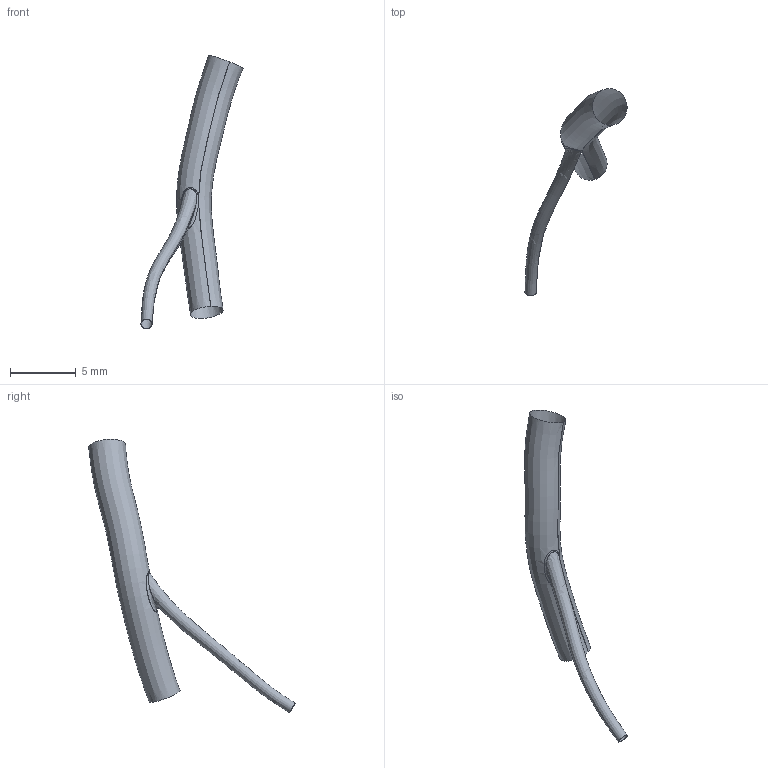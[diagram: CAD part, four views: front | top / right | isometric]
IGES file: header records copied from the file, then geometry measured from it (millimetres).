
Global section: file name: C:\Documents and Settings\Administrator\Desktop\FDA-Pig\Domestic LCA\Pig_000003\diag.igs; native system: Rhinoceros ( May 19 2006 ); preprocessor: Trout Lake IGES 012 May 19 2006; date: 111205.182733; units: centimetre
Bounding box: 7.78 x 15.75 x 20.85 mm (x, y, z)
Surface area: 210.3 mm2 (no closed solid volume)
Topology: 0 solids, 0 shells, 3 faces, 50 edges, 48 vertices
Faces by surface type: bspline 3
